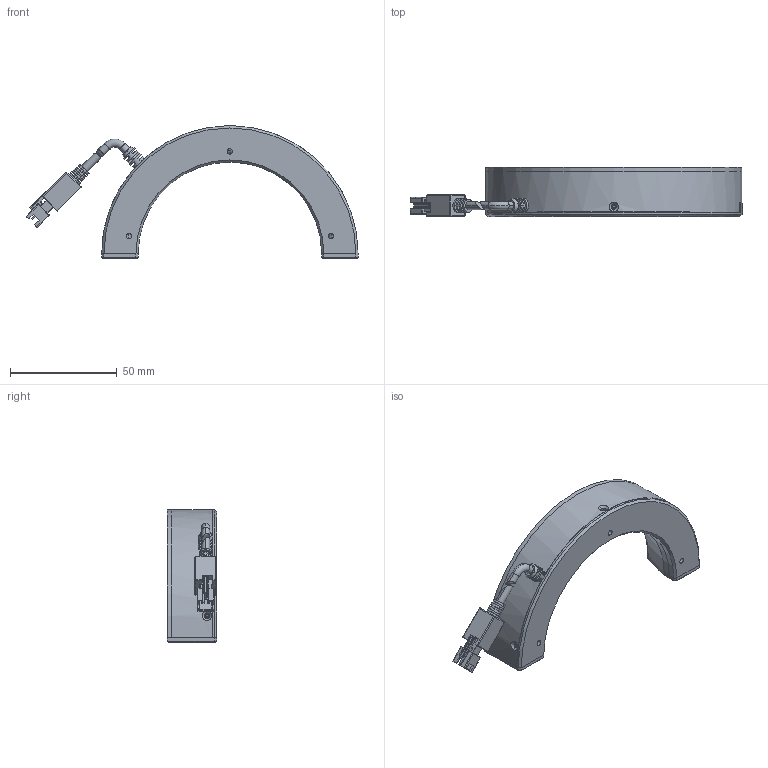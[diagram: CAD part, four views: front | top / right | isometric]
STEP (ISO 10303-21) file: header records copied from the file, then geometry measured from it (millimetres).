
FILE_DESCRIPTION (( 'STEP AP203' ), '1' );
FILE_NAME ('PPX-RI12075-W-V1.STEP', '2020-09-18T07:44:50', ( 'China' ), ( 'Home' ), 'SwSTEP 2.0', 'SolidWorks 2016', '' );
FILE_SCHEMA (( 'CONFIG_CONTROL_DESIGN' ));
Length unit declared in the file: millimetre
Products named in the file (8): PPX-RI12075-V1-MCS; PPX-RI12075PCB-V1; 两芯电源线 （母端） - 副本; PPX-RIC12075-V1結啣酘; PPX-RIC12075-V1結啣衵; PPX-RI12075-W-V1; PPX-RI12075-V1菁釱; PPX-RI12075-V1俋褲
Assembly tree (7 placements, depth 2):
  PPX-RI12075-W-V1
    PPX-RI12075-V1菁釱
    PPX-RI12075-V1俋褲
    PPX-RI12075-V1-MCS
    PPX-RI12075PCB-V1
    两芯电源线 （母端） - 副本
    PPX-RIC12075-V1結啣酘
    PPX-RIC12075-V1結啣衵
Bounding box: 155.5 x 23 x 62 mm (x, y, z)
Volume: 46484.2 mm3; surface area: 43087.1 mm2
Topology: 8 solids, 8 shells, 469 faces, 1217 edges, 765 vertices
Faces by surface type: plane 215, cylinder 153, cone 71, torus 24, sphere 4, bspline 2
Entity records: 15746 total; most frequent: CARTESIAN_POINT 3198, DIRECTION 2521, ORIENTED_EDGE 2402, EDGE_CURVE 1201, AXIS2_PLACEMENT_3D 900, VERTEX_POINT 765, VECTOR 721, LINE 721
